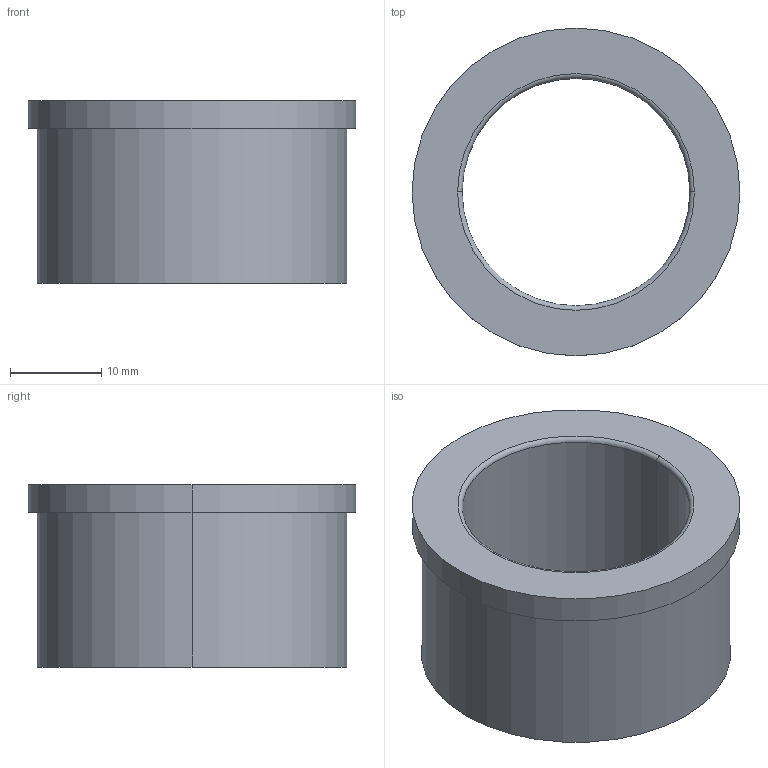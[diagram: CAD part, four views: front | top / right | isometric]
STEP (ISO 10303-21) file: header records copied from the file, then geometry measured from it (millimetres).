
FILE_DESCRIPTION(/* description */ (''),/* implementation_level */ '2;1');
FILE_NAME(/* name */ '3d_sghz25-20_00314_r00.stp',/* time_stamp */ '2011-01-10T14:11:11+09:00',/* author */ ('MISUMI'),/* organization */ (''),/* preprocessor_version */ 'ST-DEVELOPER v11',/* originating_system */ 'UGS - NX 5.0',/* authorisation */ '');
FILE_SCHEMA (('CONFIG_CONTROL_DESIGN'));
Length unit declared in the file: millimetre
Products named in the file (1): 3d_sghz25-20_00314_r00
Bounding box: 36 x 36 x 20 mm (x, y, z)
Volume: 8662.3 mm3; surface area: 4746.4 mm2
Topology: 1 solids, 1 shells, 13 faces, 26 edges, 16 vertices
Faces by surface type: cylinder 6, torus 4, plane 3
Entity records: 438 total; most frequent: DIRECTION 74, CARTESIAN_POINT 56, ORIENTED_EDGE 52, AXIS2_PLACEMENT_3D 34, EDGE_CURVE 26, CIRCLE 20, EDGE_LOOP 16, VERTEX_POINT 16
